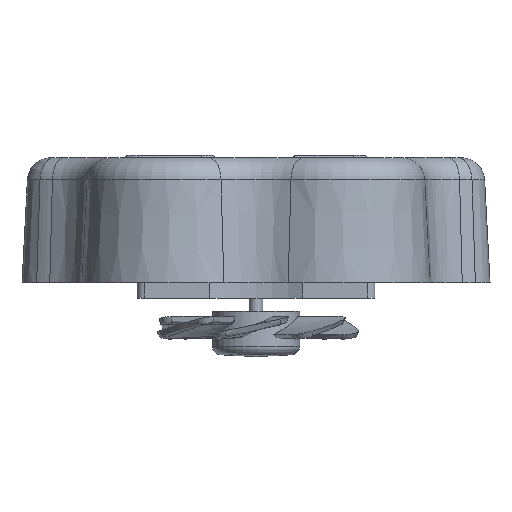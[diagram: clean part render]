
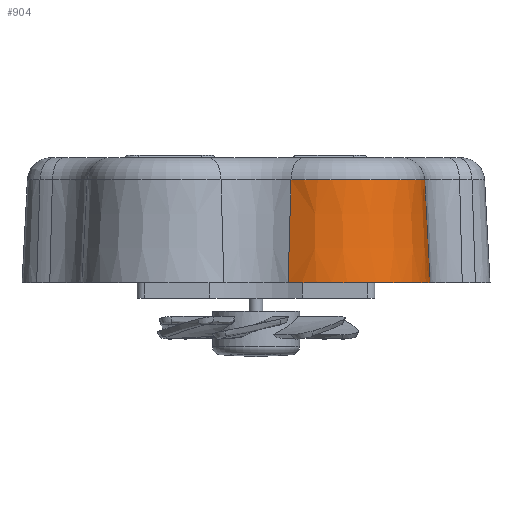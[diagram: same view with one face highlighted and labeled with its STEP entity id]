
A CAD part, left-side view. The second image highlights one B-rep face of the part: STEP entity #904.
In plain terms, the highlighted conical face has half-angle 3 degrees and reference radius 12 mm.
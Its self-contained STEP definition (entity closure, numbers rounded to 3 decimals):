
#318=CONICAL_SURFACE('',#6512,12.,3.);
#412=FACE_OUTER_BOUND('',#1523,.T.);
#904=ADVANCED_FACE('',(#412),#318,.T.);
#1523=EDGE_LOOP('',(#2575,#2576,#2577,#2578));
#2056=CIRCLE('',#6482,12.);
#2079=CIRCLE('',#6511,11.31);
#2575=ORIENTED_EDGE('',*,*,#4978,.F.);
#2576=ORIENTED_EDGE('',*,*,#4979,.T.);
#2577=ORIENTED_EDGE('',*,*,#4975,.T.);
#2578=ORIENTED_EDGE('',*,*,#4943,.T.);
#4339=VERTEX_POINT('',#9332);
#4340=VERTEX_POINT('',#9334);
#4363=VERTEX_POINT('',#9394);
#4365=VERTEX_POINT('',#9400);
#4943=EDGE_CURVE('',#4340,#4339,#2056,.T.);
#4975=EDGE_CURVE('',#4363,#4340,#5726,.T.);
#4978=EDGE_CURVE('',#4365,#4339,#5728,.T.);
#4979=EDGE_CURVE('',#4365,#4363,#2079,.T.);
#5726=LINE('',#9393,#6063);
#5728=LINE('',#9399,#6065);
#6063=VECTOR('',#7472,1.);
#6065=VECTOR('',#7478,1.);
#6482=AXIS2_PLACEMENT_3D('',#9333,#7408,#7409);
#6511=AXIS2_PLACEMENT_3D('',#9401,#7479,#7480);
#6512=AXIS2_PLACEMENT_3D('',#9402,#7481,#7482);
#7408=DIRECTION('',(0.,0.,1.));
#7409=DIRECTION('',(-1.,0.,0.));
#7472=DIRECTION('',(-0.045,0.027,-0.999));
#7478=DIRECTION('',(0.001,-0.052,-0.999));
#7479=DIRECTION('',(0.,0.,-1.));
#7480=DIRECTION('',(1.,0.,0.));
#7481=DIRECTION('',(0.,0.,-1.));
#7482=DIRECTION('',(1.,0.,0.));
#9332=CARTESIAN_POINT('',(-17.646,-22.312,0.));
#9333=CARTESIAN_POINT('',(-17.865,-10.314,0.));
#9334=CARTESIAN_POINT('',(-28.146,-4.126,0.));
#9393=CARTESIAN_POINT('',(-28.146,-4.126,0.));
#9394=CARTESIAN_POINT('',(-27.555,-4.481,13.157));
#9399=CARTESIAN_POINT('',(-17.646,-22.312,0.));
#9400=CARTESIAN_POINT('',(-17.658,-21.623,13.157));
#9401=CARTESIAN_POINT('',(-17.865,-10.314,13.157));
#9402=CARTESIAN_POINT('',(-17.865,-10.314,0.));
